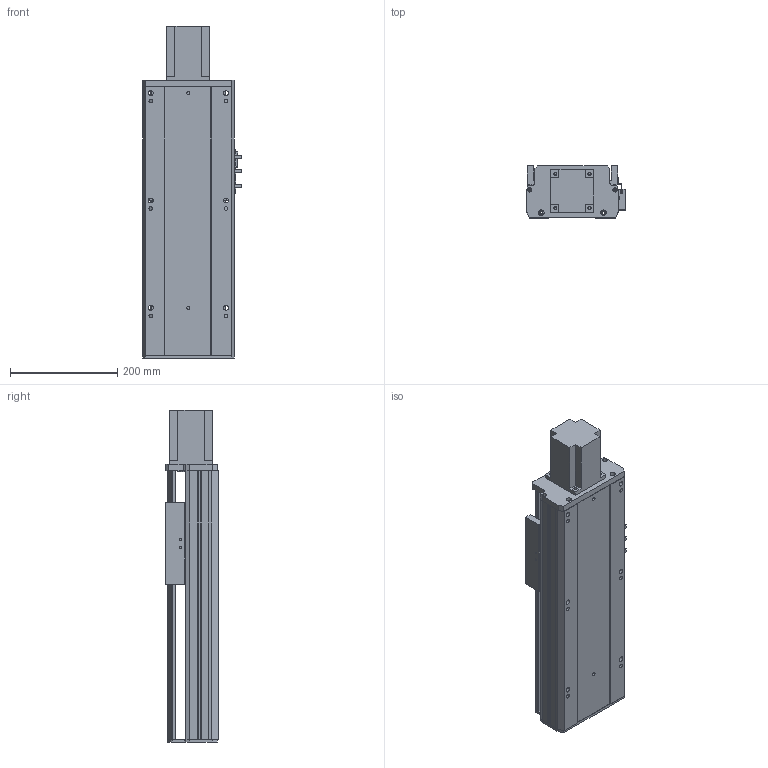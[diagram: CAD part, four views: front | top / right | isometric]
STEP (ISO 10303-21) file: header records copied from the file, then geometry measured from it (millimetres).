
FILE_DESCRIPTION (( 'STEP AP203' ), '1' );
FILE_NAME ('Y170-D10-S250-BD-P750W.STEP', '2020-01-22T03:50:42', ( '微软用户' ), ( '微软中国' ), 'SwSTEP 2.0', 'SolidWorks 2017', '' );
FILE_SCHEMA (( 'CONFIG_CONTROL_DESIGN' ));
Length unit declared in the file: millimetre
Products named in the file (10): Y170--雄赽釱-梓--; YD-Y100-135-新外置传感挡片(通用）; Y170-D10-S250-BD-P750W; Y100-135俋离換覜ん; 170--掛极-BD; Y170-萇儂楊擘啣--; 135-盓傅釱-FK15; 侂狟750W; Y170耜裔--準---; Y170-陔遴奻裔-BD
Assembly tree (11 placements, depth 2):
  Y170-D10-S250-BD-P750W
    YD-Y100-135-新外置传感挡片(通用）
    Y100-135俋离換覜ん  x3
    170--掛极-BD
    Y170-萇儂楊擘啣--
    135-盓傅釱-FK15
    侂狟750W
    Y170耜裔--準---
    Y170-陔遴奻裔-BD
    Y170--雄赽釱-梓--
Bounding box: 183.5 x 97 x 618.5 mm (x, y, z)
Volume: 3061841.7 mm3; surface area: 926406.3 mm2
Topology: 11 solids, 11 shells, 780 faces, 2163 edges, 1432 vertices
Faces by surface type: cylinder 390, plane 388, torus 2
Entity records: 24751 total; most frequent: CARTESIAN_POINT 4235, DIRECTION 4185, ORIENTED_EDGE 3990, EDGE_CURVE 1995, AXIS2_PLACEMENT_3D 1494, VERTEX_POINT 1320, VECTOR 1197, LINE 1197
